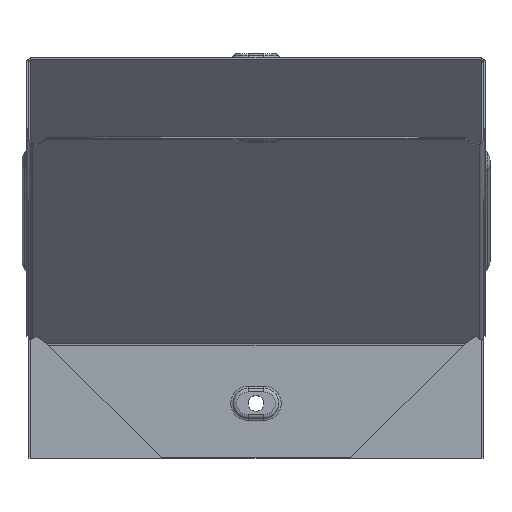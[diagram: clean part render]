
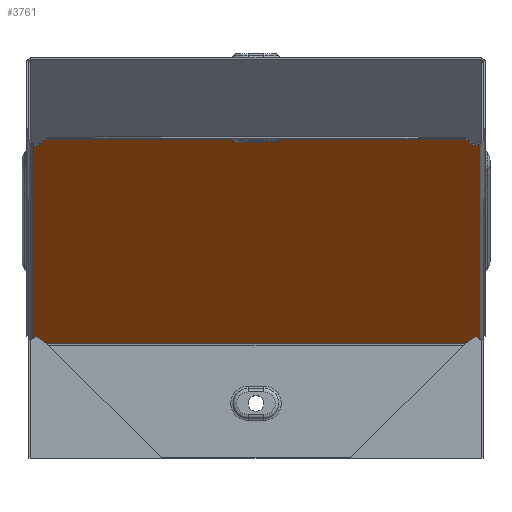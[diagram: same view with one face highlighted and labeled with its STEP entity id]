
A CAD part, top view. The second image highlights one B-rep face of the part: STEP entity #3761.
In plain terms, the highlighted planar face has unit normal (0, -0.707, 0.707).
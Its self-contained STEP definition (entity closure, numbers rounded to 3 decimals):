
#3 = CARTESIAN_POINT ( 'NONE',  ( 98.2, -17.724, -67.724 ) ) ;
#18 = ORIENTED_EDGE ( 'NONE', *, *, #4802, .T. ) ;
#77 = DIRECTION ( 'NONE',  ( -0.707, 0.5, 0.5 ) ) ;
#125 = DIRECTION ( 'NONE',  ( 0., -0.707, -0.707 ) ) ;
#173 = DIRECTION ( 'NONE',  ( 0.707, -0.5, -0.5 ) ) ;
#339 = ORIENTED_EDGE ( 'NONE', *, *, #6924, .T. ) ;
#436 = VECTOR ( 'NONE', #7247, 1000. ) ;
#459 = DIRECTION ( 'NONE',  ( -0.707, -0.5, -0.5 ) ) ;
#545 = PLANE ( 'NONE',  #6936 ) ;
#558 = VERTEX_POINT ( 'NONE', #2237 ) ;
#657 = CARTESIAN_POINT ( 'NONE',  ( -92.181, -19.707, -69.707 ) ) ;
#788 = EDGE_CURVE ( 'NONE', #6770, #3879, #6153, .T. ) ;
#802 = CARTESIAN_POINT ( 'NONE',  ( 98.2, 70., 20. ) ) ;
#852 = DIRECTION ( 'NONE',  ( 0., -0.707, -0.707 ) ) ;
#899 = EDGE_CURVE ( 'NONE', #5948, #933, #6980, .T. ) ;
#933 = VERTEX_POINT ( 'NONE', #5617 ) ;
#979 = VECTOR ( 'NONE', #5335, 1000. ) ;
#1006 = DIRECTION ( 'NONE',  ( 0.707, 0.5, 0.5 ) ) ;
#1128 = CARTESIAN_POINT ( 'NONE',  ( 92.181, 69.707, 19.707 ) ) ;
#1248 = CARTESIAN_POINT ( 'NONE',  ( -100.299, 69.208, 19.208 ) ) ;
#1330 = ORIENTED_EDGE ( 'NONE', *, *, #899, .T. ) ;
#1729 = EDGE_CURVE ( 'NONE', #5560, #3879, #7065, .T. ) ;
#1803 = CARTESIAN_POINT ( 'NONE',  ( -98.2, 70., 20. ) ) ;
#2109 = CARTESIAN_POINT ( 'NONE',  ( -100.299, -19.208, -69.208 ) ) ;
#2150 = VERTEX_POINT ( 'NONE', #657 ) ;
#2191 = CARTESIAN_POINT ( 'NONE',  ( -98.2, 67.724, 17.724 ) ) ;
#2209 = LINE ( 'NONE', #1803, #4600 ) ;
#2237 = CARTESIAN_POINT ( 'NONE',  ( -96.592, 66.588, 16.588 ) ) ;
#2246 = EDGE_CURVE ( 'NONE', #5837, #6770, #5873, .T. ) ;
#2374 = DIRECTION ( 'NONE',  ( 0., 0.707, 0.707 ) ) ;
#2386 = LINE ( 'NONE', #7248, #4970 ) ;
#2465 = VECTOR ( 'NONE', #2584, 1000. ) ;
#2582 = CARTESIAN_POINT ( 'NONE',  ( 100.299, -19.208, -69.208 ) ) ;
#2584 = DIRECTION ( 'NONE',  ( -0.707, 0.5, 0.5 ) ) ;
#2586 = ORIENTED_EDGE ( 'NONE', *, *, #788, .T. ) ;
#2715 = DIRECTION ( 'NONE',  ( 0.707, 0.5, 0.5 ) ) ;
#2967 = ORIENTED_EDGE ( 'NONE', *, *, #6218, .T. ) ;
#2998 = ORIENTED_EDGE ( 'NONE', *, *, #3991, .T. ) ;
#2999 = CARTESIAN_POINT ( 'NONE',  ( 98.2, 69.707, 19.707 ) ) ;
#3071 = ORIENTED_EDGE ( 'NONE', *, *, #5566, .T. ) ;
#3093 = VECTOR ( 'NONE', #4426, 1000. ) ;
#3111 = CARTESIAN_POINT ( 'NONE',  ( -92.181, 69.707, 19.707 ) ) ;
#3496 = LINE ( 'NONE', #6923, #3965 ) ;
#3519 = VERTEX_POINT ( 'NONE', #7309 ) ;
#3581 = LINE ( 'NONE', #5392, #2465 ) ;
#3598 = ORIENTED_EDGE ( 'NONE', *, *, #5006, .F. ) ;
#3761 = ADVANCED_FACE ( 'NONE', ( #5280 ), #545, .F. ) ;
#3789 = ORIENTED_EDGE ( 'NONE', *, *, #2246, .T. ) ;
#3810 = CARTESIAN_POINT ( 'NONE',  ( -41.546, 105.512, 55.512 ) ) ;
#3846 = VECTOR ( 'NONE', #77, 1000. ) ;
#3879 = VERTEX_POINT ( 'NONE', #3 ) ;
#3965 = VECTOR ( 'NONE', #459, 1000. ) ;
#3991 = EDGE_CURVE ( 'NONE', #7598, #5948, #2209, .T. ) ;
#4249 = VERTEX_POINT ( 'NONE', #1128 ) ;
#4426 = DIRECTION ( 'NONE',  ( -0.707, -0.5, -0.5 ) ) ;
#4538 = CARTESIAN_POINT ( 'NONE',  ( 41.546, -55.512, -105.512 ) ) ;
#4600 = VECTOR ( 'NONE', #125, 1000. ) ;
#4657 = VECTOR ( 'NONE', #1006, 1000. ) ;
#4784 = CARTESIAN_POINT ( 'NONE',  ( 98.2, 67.724, 17.724 ) ) ;
#4802 = EDGE_CURVE ( 'NONE', #558, #7598, #5802, .T. ) ;
#4936 = EDGE_CURVE ( 'NONE', #3519, #4249, #3581, .T. ) ;
#4970 = VECTOR ( 'NONE', #7274, 1000. ) ;
#5006 = EDGE_CURVE ( 'NONE', #5837, #2150, #2386, .T. ) ;
#5026 = VERTEX_POINT ( 'NONE', #3111 ) ;
#5132 = CARTESIAN_POINT ( 'NONE',  ( 92.181, -19.707, -69.707 ) ) ;
#5271 = DIRECTION ( 'NONE',  ( 0., 0.707, -0.707 ) ) ;
#5280 = FACE_OUTER_BOUND ( 'NONE', #5584, .T. ) ;
#5335 = DIRECTION ( 'NONE',  ( -1., 0., 0. ) ) ;
#5392 = CARTESIAN_POINT ( 'NONE',  ( 41.546, 105.512, 55.512 ) ) ;
#5560 = VERTEX_POINT ( 'NONE', #4784 ) ;
#5566 = EDGE_CURVE ( 'NONE', #4249, #5026, #7616, .T. ) ;
#5575 = ORIENTED_EDGE ( 'NONE', *, *, #6188, .T. ) ;
#5584 = EDGE_LOOP ( 'NONE', ( #339, #6174, #3071, #2967, #18, #2998, #1330, #5575, #3598, #3789, #2586, #7308 ) ) ;
#5617 = CARTESIAN_POINT ( 'NONE',  ( -96.592, -16.588, -66.588 ) ) ;
#5619 = CARTESIAN_POINT ( 'NONE',  ( 96.592, -16.588, -66.588 ) ) ;
#5802 = LINE ( 'NONE', #1248, #3846 ) ;
#5837 = VERTEX_POINT ( 'NONE', #5132 ) ;
#5873 = LINE ( 'NONE', #4538, #4657 ) ;
#5899 = CARTESIAN_POINT ( 'NONE',  ( -98.2, -17.724, -67.724 ) ) ;
#5948 = VERTEX_POINT ( 'NONE', #5899 ) ;
#5983 = VECTOR ( 'NONE', #2715, 1000. ) ;
#6153 = LINE ( 'NONE', #2582, #436 ) ;
#6174 = ORIENTED_EDGE ( 'NONE', *, *, #4936, .T. ) ;
#6188 = EDGE_CURVE ( 'NONE', #933, #2150, #6422, .T. ) ;
#6218 = EDGE_CURVE ( 'NONE', #5026, #558, #6227, .T. ) ;
#6227 = LINE ( 'NONE', #3810, #3093 ) ;
#6422 = LINE ( 'NONE', #7234, #7505 ) ;
#6700 = VECTOR ( 'NONE', #852, 1000. ) ;
#6770 = VERTEX_POINT ( 'NONE', #5619 ) ;
#6923 = CARTESIAN_POINT ( 'NONE',  ( 100.299, 69.208, 19.208 ) ) ;
#6924 = EDGE_CURVE ( 'NONE', #5560, #3519, #3496, .T. ) ;
#6936 = AXIS2_PLACEMENT_3D ( 'NONE', #7565, #5271, #2374 ) ;
#6980 = LINE ( 'NONE', #2109, #5983 ) ;
#7065 = LINE ( 'NONE', #802, #6700 ) ;
#7234 = CARTESIAN_POINT ( 'NONE',  ( -41.546, -55.512, -105.512 ) ) ;
#7247 = DIRECTION ( 'NONE',  ( 0.707, -0.5, -0.5 ) ) ;
#7248 = CARTESIAN_POINT ( 'NONE',  ( 98.2, -19.707, -69.707 ) ) ;
#7274 = DIRECTION ( 'NONE',  ( -1., 0., 0. ) ) ;
#7308 = ORIENTED_EDGE ( 'NONE', *, *, #1729, .F. ) ;
#7309 = CARTESIAN_POINT ( 'NONE',  ( 96.592, 66.588, 16.588 ) ) ;
#7505 = VECTOR ( 'NONE', #173, 1000. ) ;
#7565 = CARTESIAN_POINT ( 'NONE',  ( 98.2, 70., 20. ) ) ;
#7598 = VERTEX_POINT ( 'NONE', #2191 ) ;
#7616 = LINE ( 'NONE', #2999, #979 ) ;
